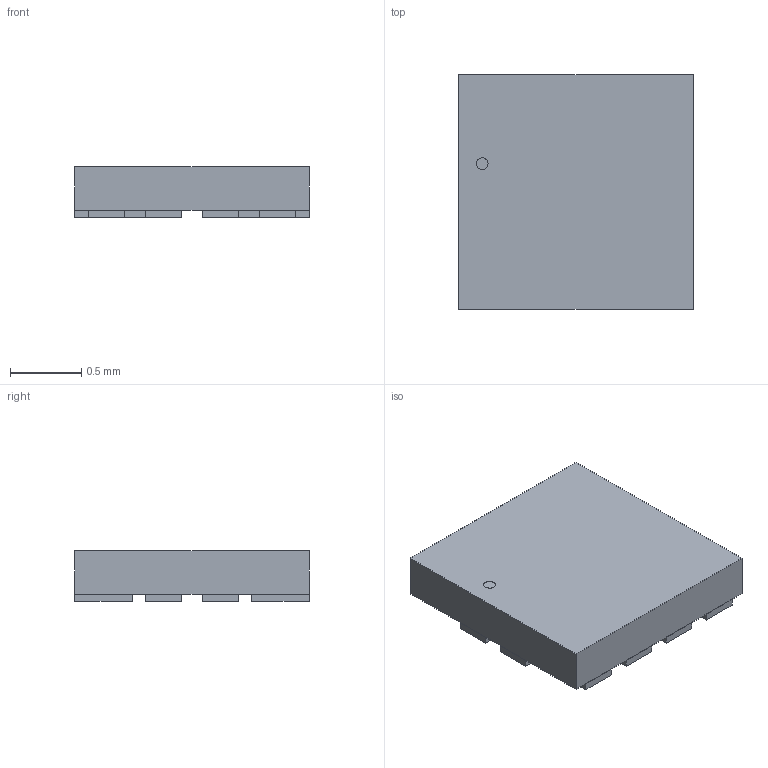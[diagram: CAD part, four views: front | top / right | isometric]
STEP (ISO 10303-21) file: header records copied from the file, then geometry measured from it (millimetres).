
FILE_DESCRIPTION(('STEP AP214'),'1');
FILE_NAME('SOT1355-1_X2QFN12_NXP','2025-04-03T02:57:11',(''),(''),'','','');
FILE_SCHEMA(('AUTOMOTIVE_DESIGN'));
Length unit declared in the file: millimetre
Products named in the file (1): product
Bounding box: 1.65 x 1.65 x 0.36 mm (x, y, z)
Volume: 0.9 mm3; surface area: 11.3 mm2
Topology: 14 solids, 14 shells, 81 faces, 159 edges, 106 vertices
Faces by surface type: plane 80, cylinder 1
Full cylindrical faces by diameter (mm): 0.083 x1
Entity records: 2101 total; most frequent: DIRECTION 326, ORIENTED_EDGE 316, CARTESIAN_POINT 191, EDGE_CURVE 158, LINE 156, VECTOR 156, VERTEX_POINT 106, AXIS2_PLACEMENT_3D 85
